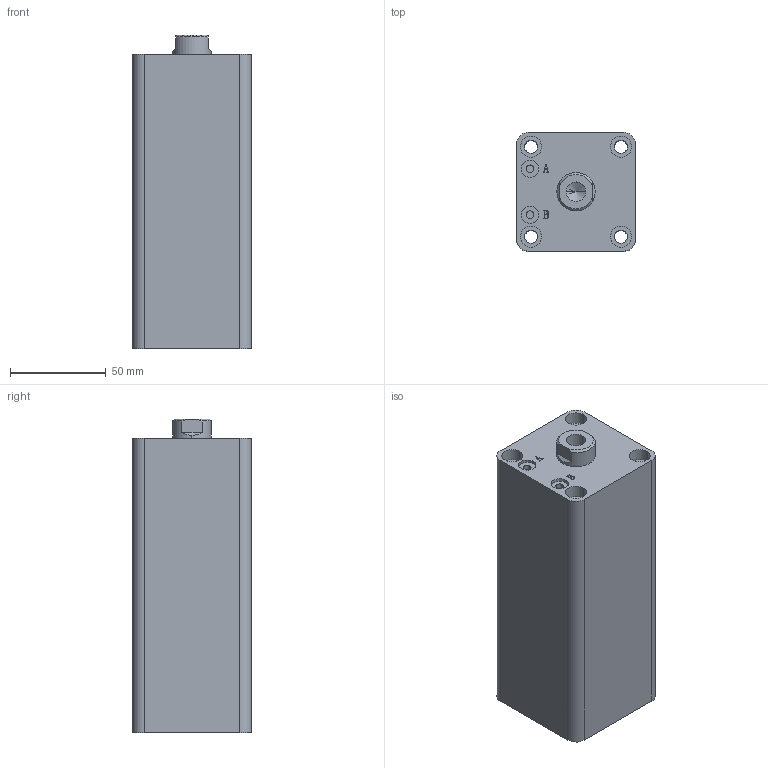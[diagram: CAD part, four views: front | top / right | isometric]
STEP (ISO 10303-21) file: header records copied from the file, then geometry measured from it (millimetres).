
FILE_DESCRIPTION (( 'STEP AP203' ), '1' );
FILE_NAME ('HTB-SDMA32-100N.STEP', '2019-10-07T11:46:18', ( '微软用户' ), ( '微软中国' ), 'SwSTEP 2.0', 'SolidWorks 2012', '' );
FILE_SCHEMA (( 'CONFIG_CONTROL_DESIGN' ));
Length unit declared in the file: millimetre
Products named in the file (3): HTB-SDMA32-100N; HTB-SDMA32-100N活塞杆; HTB-SDMA32-100掛极
Assembly tree (2 placements, depth 2):
  HTB-SDMA32-100N
    HTB-SDMA32-100掛极
    HTB-SDMA32-100N活塞杆
Bounding box: 62 x 62 x 164 mm (x, y, z)
Volume: 513793.6 mm3; surface area: 85092.9 mm2
Topology: 2 solids, 2 shells, 137 faces, 331 edges, 217 vertices
Faces by surface type: plane 65, cylinder 46, bspline 16, torus 6, cone 4
Entity records: 5070 total; most frequent: CARTESIAN_POINT 1576, ORIENTED_EDGE 658, DIRECTION 647, EDGE_CURVE 329, AXIS2_PLACEMENT_3D 232, VERTEX_POINT 217, VECTOR 183, LINE 183
